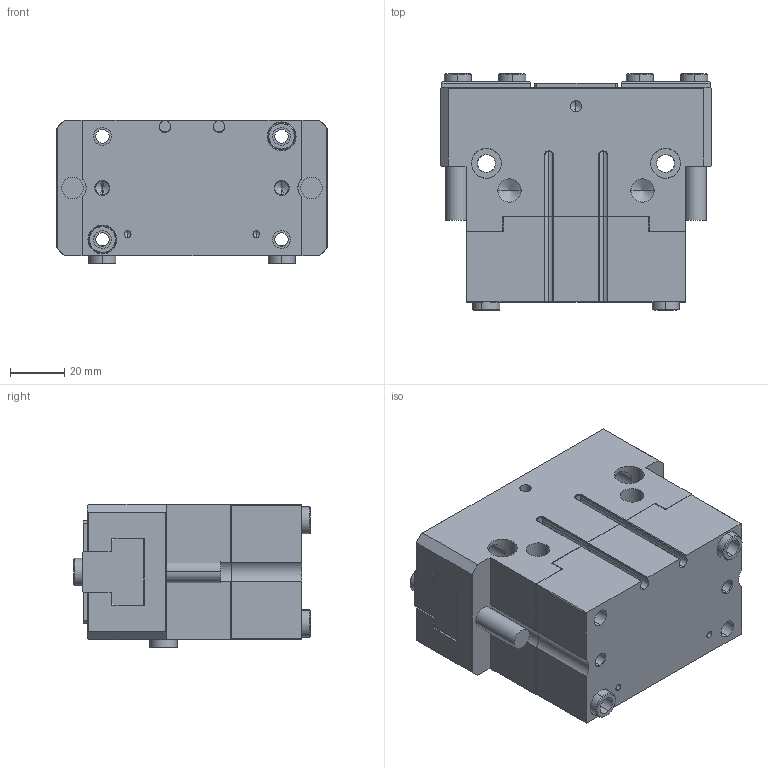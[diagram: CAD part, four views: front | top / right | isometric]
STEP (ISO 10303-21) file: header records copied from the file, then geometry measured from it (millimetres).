
FILE_DESCRIPTION (( 'STEP AP203' ), '1' );
FILE_NAME ('OPP-100-C1-MC&MA-原始檔-組合-W106.04.20.STEP', '2017-04-19T09:33:36', ( 'DanyaoCAD' ), ( '' ), 'SwSTEP 2.0', 'SolidWorks 2016', '' );
FILE_SCHEMA (( 'CONFIG_CONTROL_DESIGN' ));
Length unit declared in the file: millimetre
Products named in the file (6): Corpo; Griffa; Coperchio; Fondello; OPP-100-C1-MC&MA-原始檔-組合-W106.04.20; Boccola
Assembly tree (13 placements, depth 2):
  OPP-100-C1-MC&MA-原始檔-組合-W106.04.20
    Boccola  x8
    Corpo
    Griffa  x2
    Coperchio
    Fondello
Bounding box: 100 x 87 x 53 mm (x, y, z)
Volume: 322739.1 mm3; surface area: 75371.8 mm2
Topology: 13 solids, 13 shells, 1233 faces, 3344 edges, 2175 vertices
Faces by surface type: bspline 640, plane 330, cylinder 153, cone 110
Entity records: 52942 total; most frequent: CARTESIAN_POINT 27947, ORIENTED_EDGE 6094, EDGE_CURVE 3047, DIRECTION 3008, VERTEX_POINT 2013, VECTOR 1468, LINE 1468, B_SPLINE_CURVE_WITH_KNOTS 1303
